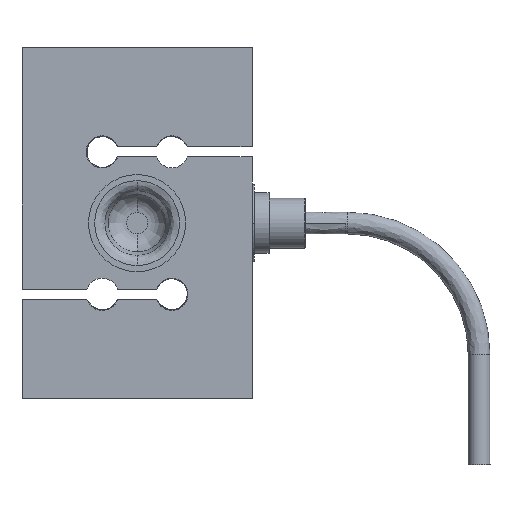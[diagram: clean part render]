
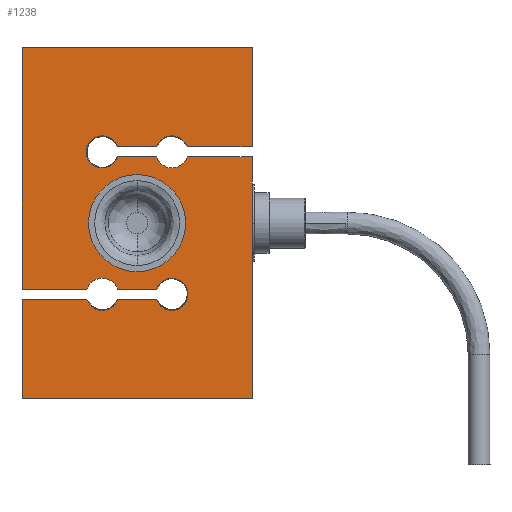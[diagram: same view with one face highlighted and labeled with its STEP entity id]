
A CAD part, left-side view. The second image highlights one B-rep face of the part: STEP entity #1238.
In plain terms, the highlighted free-form (B-spline) face has degree [1, 1] with [2, 2] control points.
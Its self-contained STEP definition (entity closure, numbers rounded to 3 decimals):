
#25=DIRECTION('',(0.,-1.,0.));
#26=VECTOR('',#25,16.15);
#27=CARTESIAN_POINT('',(-15.5,-12.45,16.449));
#28=LINE('',#27,#26);
#29=CARTESIAN_POINT('',(-15.5,8.65,-17.699));
#30=DIRECTION('',(-1.,0.,0.));
#31=DIRECTION('',(0.,0.95,-0.313));
#32=AXIS2_PLACEMENT_3D('',#29,#30,#31);
#34=CARTESIAN_POINT('',(-15.5,-8.65,-17.699));
#35=DIRECTION('',(-1.,0.,0.));
#36=DIRECTION('',(0.,0.95,-0.313));
#37=AXIS2_PLACEMENT_3D('',#34,#35,#36);
#39=CARTESIAN_POINT('',(-15.5,-8.65,-17.699));
#40=DIRECTION('',(-1.,0.,0.));
#41=DIRECTION('',(0.,-0.95,-0.313));
#42=AXIS2_PLACEMENT_3D('',#39,#40,#41);
#44=DIRECTION('',(0.,1.,0.));
#45=VECTOR('',#44,9.701);
#46=CARTESIAN_POINT('',(-15.5,-4.85,-16.449));
#47=LINE('',#46,#45);
#48=CARTESIAN_POINT('',(-15.5,8.65,-17.699));
#49=DIRECTION('',(-1.,0.,0.));
#50=DIRECTION('',(0.,-0.95,0.313));
#51=AXIS2_PLACEMENT_3D('',#48,#49,#50);
#53=DIRECTION('',(0.,1.,0.));
#54=VECTOR('',#53,16.15);
#55=CARTESIAN_POINT('',(-15.5,12.45,-16.449));
#56=LINE('',#55,#54);
#57=CARTESIAN_POINT('',(-15.5,-8.65,17.699));
#58=DIRECTION('',(-1.,0.,0.));
#59=DIRECTION('',(0.,-0.95,0.313));
#60=AXIS2_PLACEMENT_3D('',#57,#58,#59);
#62=CARTESIAN_POINT('',(-15.5,8.65,17.699));
#63=DIRECTION('',(-1.,0.,0.));
#64=DIRECTION('',(0.,-0.95,0.313));
#65=AXIS2_PLACEMENT_3D('',#62,#63,#64);
#67=CARTESIAN_POINT('',(-15.5,8.65,17.699));
#68=DIRECTION('',(-1.,0.,0.));
#69=DIRECTION('',(0.,0.95,0.312));
#70=AXIS2_PLACEMENT_3D('',#67,#68,#69);
#72=DIRECTION('',(0.,-1.,0.));
#73=VECTOR('',#72,9.701);
#74=CARTESIAN_POINT('',(-15.5,4.85,16.449));
#75=LINE('',#74,#73);
#76=CARTESIAN_POINT('',(-15.5,-8.65,17.699));
#77=DIRECTION('',(-1.,0.,0.));
#78=DIRECTION('',(0.,0.95,-0.313));
#79=AXIS2_PLACEMENT_3D('',#76,#77,#78);
#81=CARTESIAN_POINT('',(-15.5,0.,0.));
#82=DIRECTION('',(-1.,0.,0.));
#83=DIRECTION('',(0.,0.,1.));
#84=AXIS2_PLACEMENT_3D('',#81,#82,#83);
#86=CARTESIAN_POINT('',(-15.5,0.,0.));
#87=DIRECTION('',(-1.,0.,0.));
#88=DIRECTION('',(0.,0.,-1.));
#89=AXIS2_PLACEMENT_3D('',#86,#87,#88);
#141=DIRECTION('',(0.,1.,0.));
#142=VECTOR('',#141,57.2);
#143=CARTESIAN_POINT('',(-15.5,-28.6,43.65));
#144=LINE('',#143,#142);
#163=DIRECTION('',(0.,0.,-1.));
#164=VECTOR('',#163,60.099);
#165=CARTESIAN_POINT('',(-15.5,28.6,43.65));
#166=LINE('',#165,#164);
#217=DIRECTION('',(0.,-1.,0.));
#218=VECTOR('',#217,57.2);
#219=CARTESIAN_POINT('',(-15.5,28.6,-43.65));
#220=LINE('',#219,#218);
#239=DIRECTION('',(0.,0.,1.));
#240=VECTOR('',#239,60.099);
#241=CARTESIAN_POINT('',(-15.5,-28.6,-43.65));
#242=LINE('',#241,#240);
#370=DIRECTION('',(0.,-1.,0.));
#371=VECTOR('',#370,9.701);
#372=CARTESIAN_POINT('',(-15.5,4.85,18.949));
#373=LINE('',#372,#371);
#409=DIRECTION('',(0.,-1.,0.));
#410=VECTOR('',#409,16.15);
#411=CARTESIAN_POINT('',(-15.5,-12.45,18.949));
#412=LINE('',#411,#410);
#421=DIRECTION('',(0.,0.,1.));
#422=VECTOR('',#421,24.701);
#423=CARTESIAN_POINT('',(-15.5,-28.6,18.949));
#424=LINE('',#423,#422);
#457=DIRECTION('',(0.,1.,0.));
#458=VECTOR('',#457,9.701);
#459=CARTESIAN_POINT('',(-15.5,-4.85,-18.949));
#460=LINE('',#459,#458);
#491=DIRECTION('',(0.,1.,0.));
#492=VECTOR('',#491,16.15);
#493=CARTESIAN_POINT('',(-15.5,12.45,-18.949));
#494=LINE('',#493,#492);
#503=DIRECTION('',(0.,0.,-1.));
#504=VECTOR('',#503,24.701);
#505=CARTESIAN_POINT('',(-15.5,28.6,-18.949));
#506=LINE('',#505,#504);
#941=CARTESIAN_POINT('',(-15.5,-12.45,16.449));
#942=CARTESIAN_POINT('',(-15.5,-28.6,16.449));
#943=VERTEX_POINT('',#941);
#944=VERTEX_POINT('',#942);
#945=CARTESIAN_POINT('',(-15.5,-28.6,-43.65));
#946=VERTEX_POINT('',#945);
#947=CARTESIAN_POINT('',(-15.5,28.6,-43.65));
#948=VERTEX_POINT('',#947);
#949=CARTESIAN_POINT('',(-15.5,28.6,-18.949));
#950=VERTEX_POINT('',#949);
#951=CARTESIAN_POINT('',(-15.5,12.45,-18.949));
#952=VERTEX_POINT('',#951);
#953=CARTESIAN_POINT('',(-15.5,4.851,-18.949));
#954=VERTEX_POINT('',#953);
#955=CARTESIAN_POINT('',(-15.5,-4.85,-18.949));
#956=VERTEX_POINT('',#955);
#957=CARTESIAN_POINT('',(-15.5,-12.45,-18.949));
#958=CARTESIAN_POINT('',(-15.5,-4.85,-16.449));
#959=VERTEX_POINT('',#957);
#960=VERTEX_POINT('',#958);
#961=CARTESIAN_POINT('',(-15.5,4.85,-16.449));
#962=VERTEX_POINT('',#961);
#963=CARTESIAN_POINT('',(-15.5,12.449,-16.449));
#964=VERTEX_POINT('',#963);
#965=CARTESIAN_POINT('',(-15.5,28.6,-16.449));
#966=VERTEX_POINT('',#965);
#967=CARTESIAN_POINT('',(-15.5,28.6,43.65));
#968=VERTEX_POINT('',#967);
#969=CARTESIAN_POINT('',(-15.5,-28.6,43.65));
#970=VERTEX_POINT('',#969);
#971=CARTESIAN_POINT('',(-15.5,-28.6,18.949));
#972=VERTEX_POINT('',#971);
#973=CARTESIAN_POINT('',(-15.5,-12.45,18.949));
#974=VERTEX_POINT('',#973);
#975=CARTESIAN_POINT('',(-15.5,-4.851,18.949));
#976=VERTEX_POINT('',#975);
#977=CARTESIAN_POINT('',(-15.5,4.85,18.949));
#978=VERTEX_POINT('',#977);
#979=CARTESIAN_POINT('',(-15.5,12.45,18.949));
#980=CARTESIAN_POINT('',(-15.5,4.85,16.449));
#981=VERTEX_POINT('',#979);
#982=VERTEX_POINT('',#980);
#983=CARTESIAN_POINT('',(-15.5,-4.85,16.449));
#984=VERTEX_POINT('',#983);
#985=CARTESIAN_POINT('',(-15.5,0.,12.065));
#986=CARTESIAN_POINT('',(-15.5,0.,-12.065));
#987=VERTEX_POINT('',#985);
#988=VERTEX_POINT('',#986);
#1181=CARTESIAN_POINT('',(-15.5,-29.744,-45.396));
#1182=CARTESIAN_POINT('',(-15.5,-29.744,45.396));
#1183=CARTESIAN_POINT('',(-15.5,29.744,-45.396));
#1184=CARTESIAN_POINT('',(-15.5,29.744,45.396));
#1185=B_SPLINE_SURFACE_WITH_KNOTS('',1,1,((#1181,#1182),(#1183,#1184)),
.UNSPECIFIED.,.F.,.F.,.F.,(2,2),(2,2),(-29.744,29.744),(-45.396,45.396),
.UNSPECIFIED.);
#1187=ORIENTED_EDGE('',*,*,#1186,.T.);
#1189=ORIENTED_EDGE('',*,*,#1188,.F.);
#1191=ORIENTED_EDGE('',*,*,#1190,.F.);
#1193=ORIENTED_EDGE('',*,*,#1192,.F.);
#1195=ORIENTED_EDGE('',*,*,#1194,.F.);
#1197=ORIENTED_EDGE('',*,*,#1196,.T.);
#1199=ORIENTED_EDGE('',*,*,#1198,.F.);
#1201=ORIENTED_EDGE('',*,*,#1200,.T.);
#1203=ORIENTED_EDGE('',*,*,#1202,.T.);
#1205=ORIENTED_EDGE('',*,*,#1204,.T.);
#1207=ORIENTED_EDGE('',*,*,#1206,.T.);
#1209=ORIENTED_EDGE('',*,*,#1208,.T.);
#1211=ORIENTED_EDGE('',*,*,#1210,.F.);
#1213=ORIENTED_EDGE('',*,*,#1212,.F.);
#1215=ORIENTED_EDGE('',*,*,#1214,.F.);
#1217=ORIENTED_EDGE('',*,*,#1216,.F.);
#1219=ORIENTED_EDGE('',*,*,#1218,.T.);
#1221=ORIENTED_EDGE('',*,*,#1220,.F.);
#1223=ORIENTED_EDGE('',*,*,#1222,.T.);
#1225=ORIENTED_EDGE('',*,*,#1224,.T.);
#1227=ORIENTED_EDGE('',*,*,#1226,.T.);
#1229=ORIENTED_EDGE('',*,*,#1228,.T.);
#1230=EDGE_LOOP('',(#1187,#1189,#1191,#1193,#1195,#1197,#1199,#1201,#1203,#1205,
#1207,#1209,#1211,#1213,#1215,#1217,#1219,#1221,#1223,#1225,#1227,#1229));
#1231=FACE_OUTER_BOUND('',#1230,.F.);
#1233=ORIENTED_EDGE('',*,*,#1232,.T.);
#1235=ORIENTED_EDGE('',*,*,#1234,.T.);
#1236=EDGE_LOOP('',(#1233,#1235));
#1237=FACE_BOUND('',#1236,.F.);
#1238=ADVANCED_FACE('',(#1231,#1237),#1185,.F.);
#33=CIRCLE('',#32,4.);
#38=CIRCLE('',#37,4.);
#43=CIRCLE('',#42,4.);
#52=CIRCLE('',#51,4.);
#61=CIRCLE('',#60,4.);
#66=CIRCLE('',#65,4.);
#71=CIRCLE('',#70,4.);
#80=CIRCLE('',#79,4.);
#85=CIRCLE('',#84,12.065);
#90=CIRCLE('',#89,12.065);
#1186=EDGE_CURVE('',#943,#944,#28,.T.);
#1188=EDGE_CURVE('',#946,#944,#242,.T.);
#1190=EDGE_CURVE('',#948,#946,#220,.T.);
#1192=EDGE_CURVE('',#950,#948,#506,.T.);
#1194=EDGE_CURVE('',#952,#950,#494,.T.);
#1196=EDGE_CURVE('',#952,#954,#33,.T.);
#1198=EDGE_CURVE('',#956,#954,#460,.T.);
#1200=EDGE_CURVE('',#956,#959,#38,.T.);
#1202=EDGE_CURVE('',#959,#960,#43,.T.);
#1204=EDGE_CURVE('',#960,#962,#47,.T.);
#1206=EDGE_CURVE('',#962,#964,#52,.T.);
#1208=EDGE_CURVE('',#964,#966,#56,.T.);
#1210=EDGE_CURVE('',#968,#966,#166,.T.);
#1212=EDGE_CURVE('',#970,#968,#144,.T.);
#1214=EDGE_CURVE('',#972,#970,#424,.T.);
#1216=EDGE_CURVE('',#974,#972,#412,.T.);
#1218=EDGE_CURVE('',#974,#976,#61,.T.);
#1220=EDGE_CURVE('',#978,#976,#373,.T.);
#1222=EDGE_CURVE('',#978,#981,#66,.T.);
#1224=EDGE_CURVE('',#981,#982,#71,.T.);
#1226=EDGE_CURVE('',#982,#984,#75,.T.);
#1228=EDGE_CURVE('',#984,#943,#80,.T.);
#1232=EDGE_CURVE('',#987,#988,#85,.T.);
#1234=EDGE_CURVE('',#988,#987,#90,.T.);
